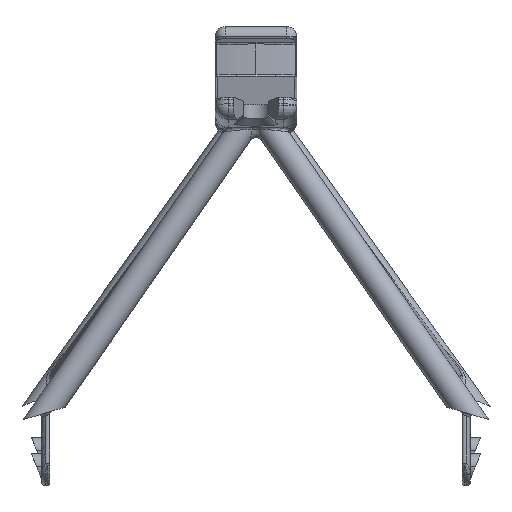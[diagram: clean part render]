
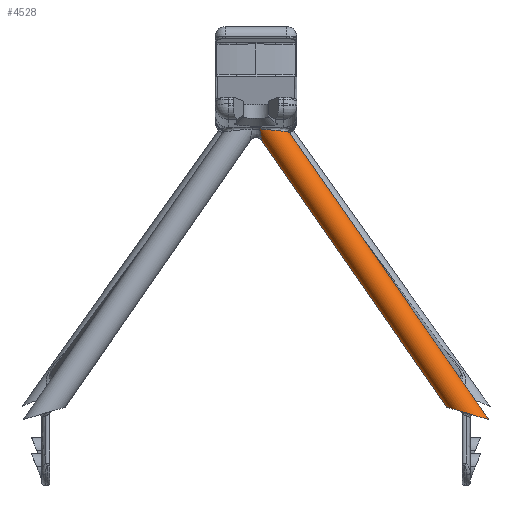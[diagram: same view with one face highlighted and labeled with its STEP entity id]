
A CAD part, top view. The second image highlights one B-rep face of the part: STEP entity #4528.
In plain terms, the highlighted cylindrical face has radius 2 mm (diameter 4 mm), a partial arc.
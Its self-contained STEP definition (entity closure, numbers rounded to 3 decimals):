
#741 = CARTESIAN_POINT ( 'NONE',  ( 0.738, 72.415, -120.547 ) ) ;
#1110 = CARTESIAN_POINT ( 'NONE',  ( 29.393, 31.251, -117.408 ) ) ;
#1193 = ORIENTED_EDGE ( 'NONE', *, *, #9629, .T. ) ;
#1249 = CARTESIAN_POINT ( 'NONE',  ( 28.958, 31.379, -117.655 ) ) ;
#2358 = CARTESIAN_POINT ( 'NONE',  ( 0.553, 72.421, -120.678 ) ) ;
#2677 = CARTESIAN_POINT ( 'NONE',  ( 28.027, 31.678, -118.822 ) ) ;
#2749 = CARTESIAN_POINT ( 'NONE',  ( 31.313, 30.695, -116.984 ) ) ;
#2822 = CARTESIAN_POINT ( 'NONE',  ( 29.854, 31.117, -117.223 ) ) ;
#2839 = VERTEX_POINT ( 'NONE', #6740 ) ;
#3239 = CYLINDRICAL_SURFACE ( 'NONE', #14536, 2. ) ;
#3703 = CARTESIAN_POINT ( 'NONE',  ( 1.358, 72.382, -120.28 ) ) ;
#3925 = CARTESIAN_POINT ( 'NONE',  ( 4.859, 71.955, -121.814 ) ) ;
#4218 = DIRECTION ( 'NONE',  ( -0.57, 0.82, -0.062 ) ) ;
#4369 = CARTESIAN_POINT ( 'NONE',  ( 33.492, 30.069, -117.668 ) ) ;
#4426 = DIRECTION ( 'NONE',  ( -0.821, -0.571, 0. ) ) ;
#4493 = DIRECTION ( 'NONE',  ( -0.57, 0.82, -0.062 ) ) ;
#4528 = ADVANCED_FACE ( 'NONE', ( #7450 ), #3239, .T. ) ;
#4814 = ORIENTED_EDGE ( 'NONE', *, *, #16848, .F. ) ;
#5122 = ORIENTED_EDGE ( 'NONE', *, *, #18049, .T. ) ;
#5343 = CARTESIAN_POINT ( 'NONE',  ( 4.604, 72.023, -121.195 ) ) ;
#5623 = CARTESIAN_POINT ( 'NONE',  ( 34.079, 29.932, -118.855 ) ) ;
#5791 = CARTESIAN_POINT ( 'NONE',  ( 27.989, 31.695, -118.99 ) ) ;
#5862 = CARTESIAN_POINT ( 'NONE',  ( 27.977, 31.702, -119.077 ) ) ;
#5929 = CARTESIAN_POINT ( 'NONE',  ( 33.963, 29.945, -118.268 ) ) ;
#6064 = CARTESIAN_POINT ( 'NONE',  ( 29.698, 31.162, -117.278 ) ) ;
#6195 = CARTESIAN_POINT ( 'NONE',  ( 38.08, 24.176, -118.419 ) ) ;
#6740 = CARTESIAN_POINT ( 'NONE',  ( 27.974, 31.707, -119.163 ) ) ;
#6746 = CARTESIAN_POINT ( 'NONE',  ( 4.877, 71.946, -121.927 ) ) ;
#6942 = CARTESIAN_POINT ( 'NONE',  ( 2.687, 72.274, -120.161 ) ) ;
#7396 = VECTOR ( 'NONE', #4493, 1000. ) ;
#7450 = FACE_OUTER_BOUND ( 'NONE', #16184, .T. ) ;
#7454 = CARTESIAN_POINT ( 'NONE',  ( 28.24, 31.601, -118.356 ) ) ;
#7521 = CARTESIAN_POINT ( 'NONE',  ( 34.085, 29.923, -118.684 ) ) ;
#7579 = CARTESIAN_POINT ( 'NONE',  ( 33.62, 30.034, -117.78 ) ) ;
#7632 = DIRECTION ( 'NONE',  ( -0.57, 0.82, -0.062 ) ) ;
#7946 =( BOUNDED_CURVE ( )  B_SPLINE_CURVE ( 3, ( #2358, #13322, #10465, #17997 ),
 .UNSPECIFIED., .F., .F. ) 
 B_SPLINE_CURVE_WITH_KNOTS ( ( 4, 4 ),
 ( 2.308, 3.185 ),
 .UNSPECIFIED. ) 
 CURVE ( )  GEOMETRIC_REPRESENTATION_ITEM ( )  RATIONAL_B_SPLINE_CURVE ( ( 1., 0.937, 0.937, 1. ) ) 
 REPRESENTATION_ITEM ( '' )  );
#8319 = CARTESIAN_POINT ( 'NONE',  ( 3.951, 72.128, -120.586 ) ) ;
#8459 = CARTESIAN_POINT ( 'NONE',  ( 0.938, 72.405, -120.442 ) ) ;
#9043 = CARTESIAN_POINT ( 'NONE',  ( 32.13, 30.459, -117.071 ) ) ;
#9336 = LINE ( 'NONE', #6195, #7396 ) ;
#9442 = LINE ( 'NONE', #14934, #15049 ) ;
#9541 = EDGE_CURVE ( 'NONE', #17889, #17363, #7946, .T. ) ;
#9629 = EDGE_CURVE ( 'NONE', #2839, #16031, #14324, .T. ) ;
#9906 = CARTESIAN_POINT ( 'NONE',  ( 4.799, 71.976, -121.599 ) ) ;
#10198 = EDGE_CURVE ( 'NONE', #16031, #11782, #9336, .T. ) ;
#10427 = B_SPLINE_CURVE_WITH_KNOTS ( 'NONE', 3,
 ( #13296, #6746, #3925, #9906, #14854, #5343, #13089, #17626, #8319, #13231, #16334, #19197, #6942, #11715, #11451, #14579, #3703, #8459, #741, #17758 ),
 .UNSPECIFIED., .F., .F.,
 ( 4, 2, 2, 2, 2, 2, 2, 2, 2, 4 ),
 ( 0., 0.001, 0.001, 0.002, 0.002, 0.003, 0.004, 0.004, 0.005, 0.006 ),
 .UNSPECIFIED. ) ;
#10465 = CARTESIAN_POINT ( 'NONE',  ( 0.832, 70.758, -121.518 ) ) ;
#10592 = CARTESIAN_POINT ( 'NONE',  ( 32.768, 30.275, -117.254 ) ) ;
#11451 = CARTESIAN_POINT ( 'NONE',  ( 2.014, 72.334, -120.154 ) ) ;
#11715 = CARTESIAN_POINT ( 'NONE',  ( 2.241, 72.315, -120.141 ) ) ;
#11782 = VERTEX_POINT ( 'NONE', #16721 ) ;
#12083 = CARTESIAN_POINT ( 'NONE',  ( 30.169, 31.026, -117.131 ) ) ;
#12150 = CARTESIAN_POINT ( 'NONE',  ( 28.053, 31.667, -118.741 ) ) ;
#12223 = CARTESIAN_POINT ( 'NONE',  ( 29.243, 31.295, -117.484 ) ) ;
#13089 = CARTESIAN_POINT ( 'NONE',  ( 4.465, 72.049, -121.018 ) ) ;
#13231 = CARTESIAN_POINT ( 'NONE',  ( 3.552, 72.18, -120.38 ) ) ;
#13296 = CARTESIAN_POINT ( 'NONE',  ( 4.883, 71.937, -122.039 ) ) ;
#13322 = CARTESIAN_POINT ( 'NONE',  ( 0.736, 71.344, -121.003 ) ) ;
#13590 = CARTESIAN_POINT ( 'NONE',  ( 28.15, 31.631, -118.503 ) ) ;
#13653 = CARTESIAN_POINT ( 'NONE',  ( 30.33, 30.979, -117.094 ) ) ;
#13712 = CARTESIAN_POINT ( 'NONE',  ( 33.07, 30.188, -117.392 ) ) ;
#13780 = CARTESIAN_POINT ( 'NONE',  ( 28.822, 31.42, -117.751 ) ) ;
#13848 = CARTESIAN_POINT ( 'NONE',  ( 32.612, 30.32, -117.198 ) ) ;
#14324 = B_SPLINE_CURVE_WITH_KNOTS ( 'NONE', 3,
 ( #15156, #5862, #5791, #2677, #12150, #13590, #7454, #15227, #16769, #13780, #1249, #12223, #1110, #6064, #2822, #12083, #13653, #16889, #19869, #2749, #18335, #9043, #20073, #13848, #10592, #13712, #16952, #4369, #7579, #15299, #18274, #19934, #5929, #16827, #7521, #18401 ),
 .UNSPECIFIED., .F., .F.,
 ( 4, 2, 2, 2, 2, 2, 2, 2, 2, 2, 2, 2, 2, 2, 2, 2, 2, 4 ),
 ( 0., 0.001, 0.001, 0.001, 0.002, 0.002, 0.003, 0.003, 0.004, 0.004, 0.005, 0.006, 0.007, 0.007, 0.008, 0.008, 0.008, 0.009 ),
 .UNSPECIFIED. ) ;
#14536 = AXIS2_PLACEMENT_3D ( 'NONE', #15469, #7632, #4426 ) ;
#14579 = CARTESIAN_POINT ( 'NONE',  ( 1.574, 72.367, -120.224 ) ) ;
#14854 = CARTESIAN_POINT ( 'NONE',  ( 4.759, 71.987, -121.496 ) ) ;
#14934 = CARTESIAN_POINT ( 'NONE',  ( 34.796, 21.893, -118.419 ) ) ;
#15049 = VECTOR ( 'NONE', #4218, 1000. ) ;
#15156 = CARTESIAN_POINT ( 'NONE',  ( 27.974, 31.707, -119.163 ) ) ;
#15227 = CARTESIAN_POINT ( 'NONE',  ( 28.446, 31.534, -118.089 ) ) ;
#15299 = CARTESIAN_POINT ( 'NONE',  ( 33.785, 29.99, -117.975 ) ) ;
#15469 = CARTESIAN_POINT ( 'NONE',  ( 36.438, 23.034, -118.419 ) ) ;
#16031 = VERTEX_POINT ( 'NONE', #5623 ) ;
#16184 = EDGE_LOOP ( 'NONE', ( #1193, #16937, #5122, #17733, #4814 ) ) ;
#16334 = CARTESIAN_POINT ( 'NONE',  ( 3.343, 72.205, -120.303 ) ) ;
#16721 = CARTESIAN_POINT ( 'NONE',  ( 4.883, 71.937, -122.039 ) ) ;
#16769 = CARTESIAN_POINT ( 'NONE',  ( 28.566, 31.497, -117.968 ) ) ;
#16827 = CARTESIAN_POINT ( 'NONE',  ( 34.056, 29.926, -118.509 ) ) ;
#16848 = EDGE_CURVE ( 'NONE', #2839, #17363, #9442, .T. ) ;
#16889 = CARTESIAN_POINT ( 'NONE',  ( 30.655, 30.885, -117.037 ) ) ;
#16937 = ORIENTED_EDGE ( 'NONE', *, *, #10198, .T. ) ;
#16952 = CARTESIAN_POINT ( 'NONE',  ( 33.218, 30.146, -117.474 ) ) ;
#17363 = VERTEX_POINT ( 'NONE', #18815 ) ;
#17554 = CARTESIAN_POINT ( 'NONE',  ( 0.553, 72.421, -120.678 ) ) ;
#17626 = CARTESIAN_POINT ( 'NONE',  ( 4.136, 72.102, -120.712 ) ) ;
#17733 = ORIENTED_EDGE ( 'NONE', *, *, #9541, .T. ) ;
#17758 = CARTESIAN_POINT ( 'NONE',  ( 0.553, 72.421, -120.678 ) ) ;
#17889 = VERTEX_POINT ( 'NONE', #17554 ) ;
#17997 = CARTESIAN_POINT ( 'NONE',  ( 0.821, 70.773, -122.124 ) ) ;
#18049 = EDGE_CURVE ( 'NONE', #11782, #17889, #10427, .T. ) ;
#18274 = CARTESIAN_POINT ( 'NONE',  ( 33.836, 29.977, -118.043 ) ) ;
#18335 = CARTESIAN_POINT ( 'NONE',  ( 31.641, 30.6, -116.996 ) ) ;
#18401 = CARTESIAN_POINT ( 'NONE',  ( 34.079, 29.932, -118.855 ) ) ;
#18815 = CARTESIAN_POINT ( 'NONE',  ( 0.821, 70.773, -122.124 ) ) ;
#19197 = CARTESIAN_POINT ( 'NONE',  ( 2.909, 72.252, -120.193 ) ) ;
#19869 = CARTESIAN_POINT ( 'NONE',  ( 30.82, 30.838, -117.017 ) ) ;
#19934 = CARTESIAN_POINT ( 'NONE',  ( 33.924, 29.954, -118.189 ) ) ;
#20073 = CARTESIAN_POINT ( 'NONE',  ( 32.294, 30.412, -117.106 ) ) ;
